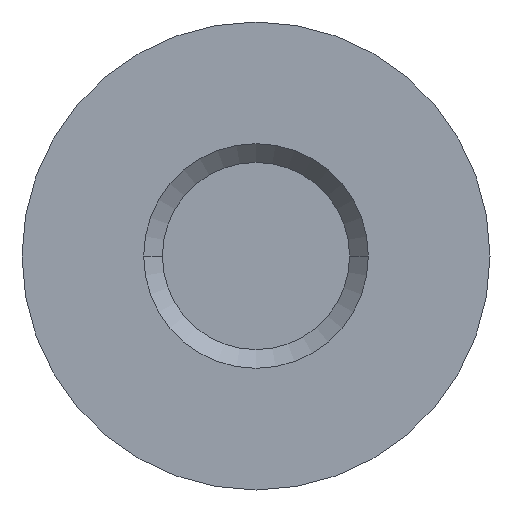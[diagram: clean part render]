
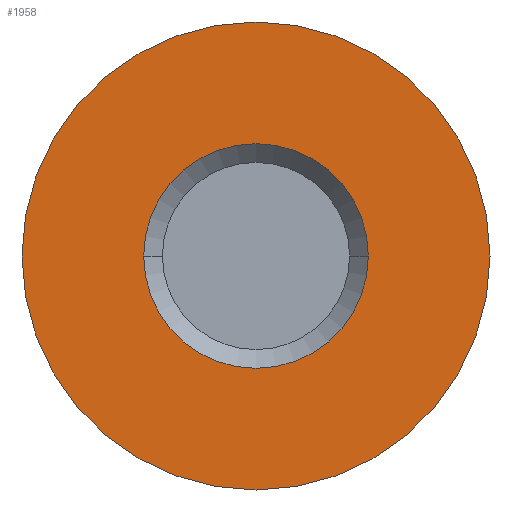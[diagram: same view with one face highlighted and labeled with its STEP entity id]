
A CAD part, front view. The second image highlights one B-rep face of the part: STEP entity #1958.
In plain terms, the highlighted planar face has unit normal (0, -1, 0).
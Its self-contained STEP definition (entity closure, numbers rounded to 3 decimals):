
#18 = EDGE_CURVE ( 'NONE', #1847, #1192, #687, .T. ) ;
#37 = CIRCLE ( 'NONE', #1777, 12.5 ) ;
#58 = FACE_OUTER_BOUND ( 'NONE', #2570, .T. ) ;
#71 = VERTEX_POINT ( 'NONE', #898 ) ;
#110 = PLANE ( 'NONE',  #1971 ) ;
#174 = DIRECTION ( 'NONE',  ( 0., 0., -1. ) ) ;
#495 = DIRECTION ( 'NONE',  ( 0., 1., 0. ) ) ;
#519 = AXIS2_PLACEMENT_3D ( 'NONE', #2063, #851, #2276 ) ;
#588 = FACE_BOUND ( 'NONE', #2015, .T. ) ;
#596 = EDGE_CURVE ( 'NONE', #71, #1658, #37, .T. ) ;
#687 = CIRCLE ( 'NONE', #1797, 6. ) ;
#704 = EDGE_CURVE ( 'NONE', #1192, #1847, #1908, .T. ) ;
#777 = ORIENTED_EDGE ( 'NONE', *, *, #1925, .T. ) ;
#841 = DIRECTION ( 'NONE',  ( 0., -1., 0. ) ) ;
#851 = DIRECTION ( 'NONE',  ( 0., 1., 0. ) ) ;
#898 = CARTESIAN_POINT ( 'NONE',  ( 0., 0., -12.5 ) ) ;
#918 = CARTESIAN_POINT ( 'NONE',  ( 0., 0., 0. ) ) ;
#1021 = AXIS2_PLACEMENT_3D ( 'NONE', #918, #841, #1306 ) ;
#1121 = CARTESIAN_POINT ( 'NONE',  ( 0., 0., 0. ) ) ;
#1188 = CIRCLE ( 'NONE', #1021, 12.5 ) ;
#1192 = VERTEX_POINT ( 'NONE', #1640 ) ;
#1290 = ORIENTED_EDGE ( 'NONE', *, *, #596, .T. ) ;
#1306 = DIRECTION ( 'NONE',  ( 0., 0., -1. ) ) ;
#1321 = ORIENTED_EDGE ( 'NONE', *, *, #704, .T. ) ;
#1362 = DIRECTION ( 'NONE',  ( 0., -1., 0. ) ) ;
#1426 = CARTESIAN_POINT ( 'NONE',  ( 0., 0., 12.5 ) ) ;
#1428 = ORIENTED_EDGE ( 'NONE', *, *, #18, .T. ) ;
#1640 = CARTESIAN_POINT ( 'NONE',  ( -6., 0., 0. ) ) ;
#1658 = VERTEX_POINT ( 'NONE', #1426 ) ;
#1688 = CARTESIAN_POINT ( 'NONE',  ( 0., 0., 0. ) ) ;
#1713 = DIRECTION ( 'NONE',  ( 0., 1., 0. ) ) ;
#1777 = AXIS2_PLACEMENT_3D ( 'NONE', #2601, #1362, #174 ) ;
#1797 = AXIS2_PLACEMENT_3D ( 'NONE', #1688, #495, #1894 ) ;
#1847 = VERTEX_POINT ( 'NONE', #2507 ) ;
#1894 = DIRECTION ( 'NONE',  ( -1., 0., 0. ) ) ;
#1908 = CIRCLE ( 'NONE', #519, 6. ) ;
#1925 = EDGE_CURVE ( 'NONE', #1658, #71, #1188, .T. ) ;
#1958 = ADVANCED_FACE ( 'NONE', ( #588, #58 ), #110, .F. ) ;
#1971 = AXIS2_PLACEMENT_3D ( 'NONE', #1121, #1713, #2545 ) ;
#2015 = EDGE_LOOP ( 'NONE', ( #1428, #1321 ) ) ;
#2063 = CARTESIAN_POINT ( 'NONE',  ( 0., 0., 0. ) ) ;
#2276 = DIRECTION ( 'NONE',  ( -1., 0., 0. ) ) ;
#2507 = CARTESIAN_POINT ( 'NONE',  ( 6., 0., 0. ) ) ;
#2545 = DIRECTION ( 'NONE',  ( 0., 0., 1. ) ) ;
#2570 = EDGE_LOOP ( 'NONE', ( #1290, #777 ) ) ;
#2601 = CARTESIAN_POINT ( 'NONE',  ( 0., 0., 0. ) ) ;
